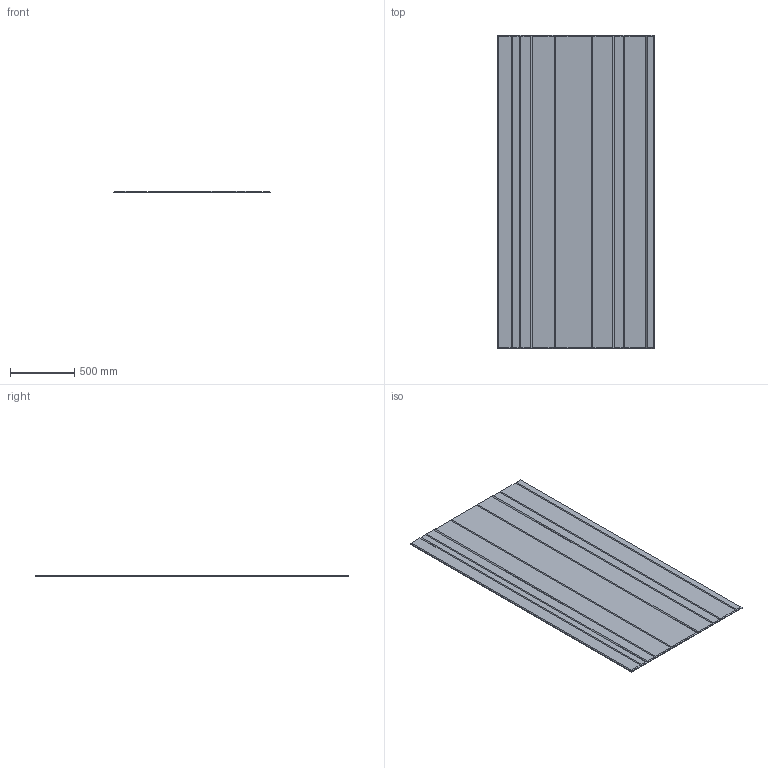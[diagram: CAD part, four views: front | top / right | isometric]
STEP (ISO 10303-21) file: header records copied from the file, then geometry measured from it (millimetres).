
FILE_DESCRIPTION(/* description */ (''),/* implementation_level */ '2;1');
FILE_NAME(/* name */ 'Y:\Design and Engineering\MaterialLogiq\CAD ASSETS\MASTER\PET ENGRAVED\WEB ASSETS\Strata Vertical.stp',/* time_stamp */ '2024-09-05T09:20:07-05:00',/* author */ ('Grant Baker'),/* organization */ (''),/* preprocessor_version */ 'ST-DEVELOPER v19',/* originating_system */ 'Autodesk Inventor 2023',/* authorisation */ '');
FILE_SCHEMA (('AUTOMOTIVE_DESIGN { 1 0 10303 214 3 1 1 }'));
Length unit declared in the file: inch
Products named in the file (1): Strata Vertical
Bounding box: 1219.2 x 2438.4 x 12.7 mm (x, y, z)
Volume: 36824805.4 mm3; surface area: 6113503.5 mm2
Topology: 1 solids, 1 shells, 50 faces, 108 edges, 60 vertices
Faces by surface type: plane 50
Entity records: 1329 total; most frequent: CARTESIAN_POINT 219, ORIENTED_EDGE 216, DIRECTION 210, LINE 108, VECTOR 108, EDGE_CURVE 108, VERTEX_POINT 60, AXIS2_PLACEMENT_3D 51
